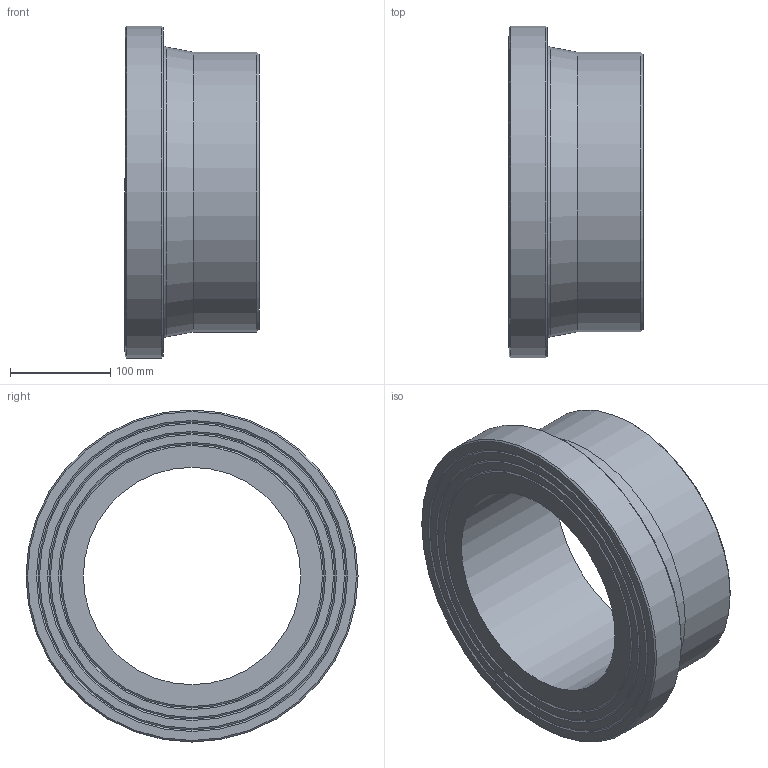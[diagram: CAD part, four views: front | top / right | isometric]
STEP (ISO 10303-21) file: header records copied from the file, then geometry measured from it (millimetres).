
FILE_DESCRIPTION(/* description */ ('Unknown'),/* implementation_level */ '2;1');
FILE_NAME(/* name */ 'CCP280G',/* time_stamp */ '2022-04-04T12:52:22+02:00',/* author */ ('Unknown'),/* organization */ ('Unknown'),/* preprocessor_version */ 'ST-DEVELOPER v18.1',/* originating_system */ 'Solid Edge',/* authorisation */ 'Unknown');
FILE_SCHEMA (('AUTOMOTIVE_DESIGN {1 0 10303 214 3 1 1}'));
Length unit declared in the file: millimetre
Products named in the file (1): CCP280G
Bounding box: 134 x 332 x 332 mm (x, y, z)
Volume: 4292815.9 mm3; surface area: 308330.9 mm2
Topology: 1 solids, 1 shells, 20 faces, 35 edges, 21 vertices
Faces by surface type: cone 10, plane 6, cylinder 3, torus 1
Full cylindrical faces by diameter (mm): 217.4 x1, 280 x1, 332 x1
Entity records: 438 total; most frequent: DIRECTION 82, CARTESIAN_POINT 61, AXIS2_PLACEMENT_3D 41, ORIENTED_EDGE 40, EDGE_LOOP 40, FACE_BOUND 40, EDGE_CURVE 20, VERTEX_POINT 20
